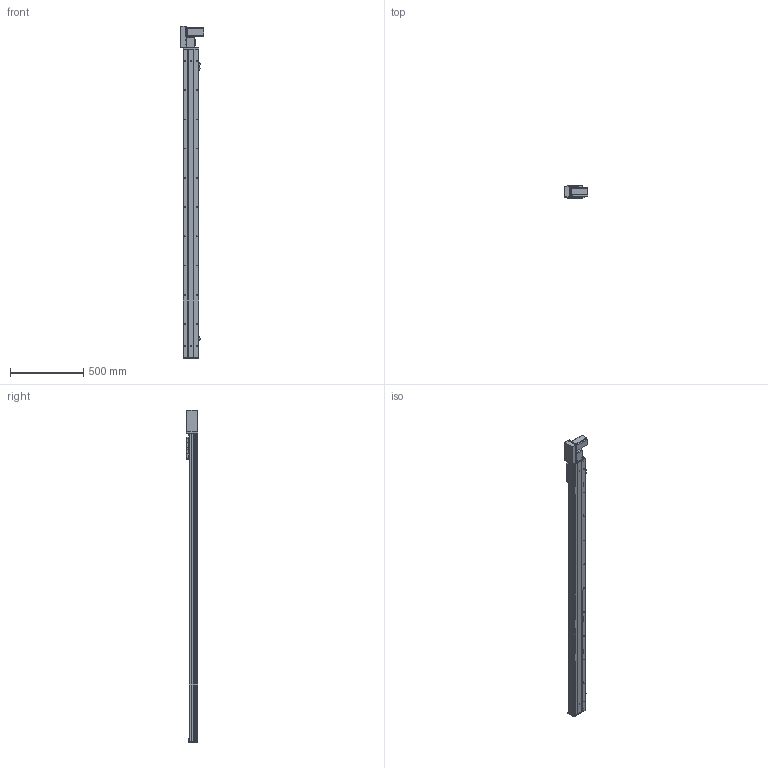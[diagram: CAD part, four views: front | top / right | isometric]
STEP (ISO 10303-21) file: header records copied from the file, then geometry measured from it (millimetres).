
FILE_DESCRIPTION (( 'STEP AP203' ), '1' );
FILE_NAME ('Y10CB-D90-S1850-BL-P400W.STEP', '2020-02-15T08:16:22', ( '微软用户' ), ( '微软中国' ), 'SwSTEP 2.0', 'SolidWorks 2017', '' );
FILE_SCHEMA (( 'CONFIG_CONTROL_DESIGN' ));
Length unit declared in the file: millimetre
Products named in the file (18): 10CB9-掛极; 10CB-耜裔; san松下电机400不带刹车----; Y135C-陔俋离換覜結え-; 0B-源倛裔啣; 0B-萇儂楊擘啣; 0CB-雄赽釱---; Y100-135俋离換覜ん--; 0B-埴倛裔啣; 0Cb-俋欶---; Y10CB-D90-S1850-BL-P400W; Y俋欶BR----; Y10B-々湍喘謫眊楊擘啣--; 10CB-詩湍-; Y10B--々湍喘謫眊--666; Y10CB- 掛极耜裔啣-毀---; Y10B-耜蚾蟀諉啣----; Y10C---詩湍揤啣
Assembly tree (21 placements, depth 2):
  Y10CB-D90-S1850-BL-P400W
    0CB-雄赽釱---
    0Cb-俋欶---
    Y10B-々湍喘謫眊楊擘啣--
    Y10B--々湍喘謫眊--666
    Y10B-耜蚾蟀諉啣----
    0B-萇儂楊擘啣
    san松下电机400不带刹车----
    0B-源倛裔啣
    0B-埴倛裔啣
    Y俋欶BR----
    10CB-詩湍-
    Y10CB- 掛极耜裔啣-毀---  x2
    Y10C---詩湍揤啣  x2
    10CB9-掛极
    10CB-耜裔
    Y135C-陔俋离換覜結え-
    Y100-135俋离換覜ん--  x3
Bounding box: 157.5 x 80.5 x 2272.5 mm (x, y, z)
Volume: 4620048.5 mm3; surface area: 2160933.3 mm2
Topology: 21 solids, 21 shells, 1038 faces, 2803 edges, 1826 vertices
Faces by surface type: cylinder 527, plane 487, cone 24
Entity records: 32904 total; most frequent: CARTESIAN_POINT 6061, DIRECTION 5266, ORIENTED_EDGE 5076, EDGE_CURVE 2538, AXIS2_PLACEMENT_3D 1881, VERTEX_POINT 1652, LINE 1504, VECTOR 1504
